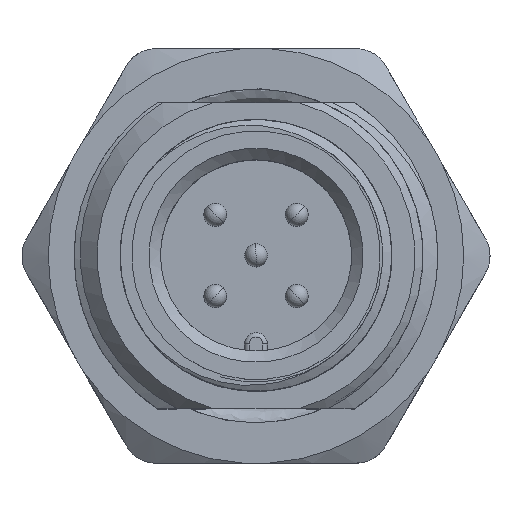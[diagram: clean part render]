
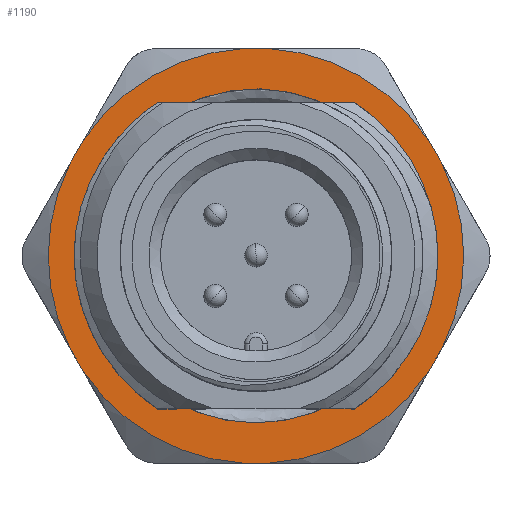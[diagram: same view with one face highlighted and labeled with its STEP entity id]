
A CAD part, top view. The second image highlights one B-rep face of the part: STEP entity #1190.
In plain terms, the highlighted planar face has unit normal (0, 0, 1).
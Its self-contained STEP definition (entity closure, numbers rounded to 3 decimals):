
#344=FACE_BOUND('',#1935,.T.);
#345=FACE_BOUND('',#1936,.T.);
#426=PLANE('',#5446);
#663=LINE('',#17451,#864);
#664=LINE('',#17455,#865);
#665=LINE('',#17459,#866);
#666=LINE('',#17463,#867);
#667=LINE('',#17467,#868);
#668=LINE('',#17471,#869);
#669=LINE('',#17475,#870);
#864=VECTOR('',#6648,1.);
#865=VECTOR('',#6651,1.);
#866=VECTOR('',#6654,1.);
#867=VECTOR('',#6657,1.);
#868=VECTOR('',#6660,1.);
#869=VECTOR('',#6663,1.);
#870=VECTOR('',#6666,1.);
#1190=ADVANCED_FACE('',(#344,#345),#426,.T.);
#1935=EDGE_LOOP('',(#3398,#3399,#3400));
#1936=EDGE_LOOP('',(#3401,#3402,#3403,#3404,#3405,#3406,#3407,#3408,#3409,
#3410,#3411,#3412));
#2144=B_SPLINE_CURVE_WITH_KNOTS('',3,(#17106,#17107,#17108,#17109),
 .UNSPECIFIED.,.F.,.F.,(4,4),(0.,1.),.UNSPECIFIED.);
#3398=ORIENTED_EDGE('',*,*,#4616,.F.);
#3399=ORIENTED_EDGE('',*,*,#4625,.T.);
#3400=ORIENTED_EDGE('',*,*,#4619,.F.);
#3401=ORIENTED_EDGE('',*,*,#4626,.F.);
#3402=ORIENTED_EDGE('',*,*,#4627,.T.);
#3403=ORIENTED_EDGE('',*,*,#4628,.F.);
#3404=ORIENTED_EDGE('',*,*,#4629,.T.);
#3405=ORIENTED_EDGE('',*,*,#4630,.F.);
#3406=ORIENTED_EDGE('',*,*,#4631,.T.);
#3407=ORIENTED_EDGE('',*,*,#4632,.F.);
#3408=ORIENTED_EDGE('',*,*,#4633,.T.);
#3409=ORIENTED_EDGE('',*,*,#4634,.F.);
#3410=ORIENTED_EDGE('',*,*,#4635,.T.);
#3411=ORIENTED_EDGE('',*,*,#4636,.F.);
#3412=ORIENTED_EDGE('',*,*,#4637,.T.);
#3966=VERTEX_POINT('',#17058);
#3967=VERTEX_POINT('',#17060);
#3968=VERTEX_POINT('',#17110);
#3971=VERTEX_POINT('',#17453);
#3972=VERTEX_POINT('',#17454);
#3973=VERTEX_POINT('',#17456);
#3974=VERTEX_POINT('',#17458);
#3975=VERTEX_POINT('',#17460);
#3976=VERTEX_POINT('',#17462);
#3977=VERTEX_POINT('',#17464);
#3978=VERTEX_POINT('',#17466);
#3979=VERTEX_POINT('',#17468);
#3980=VERTEX_POINT('',#17470);
#3981=VERTEX_POINT('',#17472);
#3982=VERTEX_POINT('',#17474);
#4616=EDGE_CURVE('',#3966,#3967,#4936,.T.);
#4619=EDGE_CURVE('',#3967,#3968,#2144,.T.);
#4625=EDGE_CURVE('',#3966,#3968,#663,.T.);
#4626=EDGE_CURVE('',#3971,#3972,#4937,.T.);
#4627=EDGE_CURVE('',#3971,#3973,#664,.T.);
#4628=EDGE_CURVE('',#3974,#3973,#4938,.T.);
#4629=EDGE_CURVE('',#3974,#3975,#665,.T.);
#4630=EDGE_CURVE('',#3976,#3975,#4939,.T.);
#4631=EDGE_CURVE('',#3976,#3977,#666,.T.);
#4632=EDGE_CURVE('',#3978,#3977,#4940,.T.);
#4633=EDGE_CURVE('',#3978,#3979,#667,.T.);
#4634=EDGE_CURVE('',#3980,#3979,#4941,.T.);
#4635=EDGE_CURVE('',#3980,#3981,#668,.T.);
#4636=EDGE_CURVE('',#3982,#3981,#4942,.T.);
#4637=EDGE_CURVE('',#3982,#3972,#669,.T.);
#4936=CIRCLE('',#5438,7.25);
#4937=CIRCLE('',#5440,9.02);
#4938=CIRCLE('',#5441,9.02);
#4939=CIRCLE('',#5442,9.02);
#4940=CIRCLE('',#5443,9.02);
#4941=CIRCLE('',#5444,9.02);
#4942=CIRCLE('',#5445,9.02);
#5438=AXIS2_PLACEMENT_3D('',#17059,#6644,#6645);
#5440=AXIS2_PLACEMENT_3D('',#17452,#6649,#6650);
#5441=AXIS2_PLACEMENT_3D('',#17457,#6652,#6653);
#5442=AXIS2_PLACEMENT_3D('',#17461,#6655,#6656);
#5443=AXIS2_PLACEMENT_3D('',#17465,#6658,#6659);
#5444=AXIS2_PLACEMENT_3D('',#17469,#6661,#6662);
#5445=AXIS2_PLACEMENT_3D('',#17473,#6664,#6665);
#5446=AXIS2_PLACEMENT_3D('',#17476,#6667,#6668);
#6644=DIRECTION('',(0.,0.,1.));
#6645=DIRECTION('',(1.,0.,0.));
#6648=DIRECTION('',(-0.985,0.175,0.));
#6649=DIRECTION('',(0.,0.,-1.));
#6650=DIRECTION('',(-1.,0.,0.));
#6651=DIRECTION('',(-0.5,-0.866,0.));
#6652=DIRECTION('',(0.,0.,-1.));
#6653=DIRECTION('',(-1.,0.,0.));
#6654=DIRECTION('',(0.5,-0.866,0.));
#6655=DIRECTION('',(0.,0.,-1.));
#6656=DIRECTION('',(-1.,0.,0.));
#6657=DIRECTION('',(1.,0.,0.));
#6658=DIRECTION('',(0.,0.,-1.));
#6659=DIRECTION('',(-1.,0.,0.));
#6660=DIRECTION('',(0.5,0.866,0.));
#6661=DIRECTION('',(0.,0.,-1.));
#6662=DIRECTION('',(-1.,0.,0.));
#6663=DIRECTION('',(-0.5,0.866,0.));
#6664=DIRECTION('',(0.,0.,-1.));
#6665=DIRECTION('',(-1.,0.,0.));
#6666=DIRECTION('',(-1.,0.,0.));
#6667=DIRECTION('',(0.,0.,1.));
#6668=DIRECTION('',(-1.,0.,0.));
#17058=CARTESIAN_POINT('',(-7.138,1.271,14.3));
#17059=CARTESIAN_POINT('',(0.,0.,14.3));
#17060=CARTESIAN_POINT('',(-6.735,2.685,14.3));
#17106=CARTESIAN_POINT('',(-6.735,2.685,14.3));
#17107=CARTESIAN_POINT('',(-6.943,2.238,14.3));
#17108=CARTESIAN_POINT('',(-7.106,1.766,14.3));
#17109=CARTESIAN_POINT('',(-7.22,1.286,14.3));
#17110=CARTESIAN_POINT('',(-7.22,1.286,14.3));
#17451=CARTESIAN_POINT('',(0.,0.,14.3));
#17452=CARTESIAN_POINT('',(0.,0.,14.3));
#17453=CARTESIAN_POINT('',(-7.497,5.015,14.3));
#17454=CARTESIAN_POINT('',(-0.595,9.,14.3));
#17455=CARTESIAN_POINT('',(-5.052,9.25,14.3));
#17456=CARTESIAN_POINT('',(-8.092,3.985,14.3));
#17457=CARTESIAN_POINT('',(0.,0.,14.3));
#17458=CARTESIAN_POINT('',(-8.092,-3.985,14.3));
#17459=CARTESIAN_POINT('',(-10.537,0.25,14.3));
#17460=CARTESIAN_POINT('',(-7.497,-5.015,14.3));
#17461=CARTESIAN_POINT('',(0.,0.,14.3));
#17462=CARTESIAN_POINT('',(-0.595,-9.,14.3));
#17463=CARTESIAN_POINT('',(-5.485,-9.,14.3));
#17464=CARTESIAN_POINT('',(0.595,-9.,14.3));
#17465=CARTESIAN_POINT('',(0.,0.,14.3));
#17466=CARTESIAN_POINT('',(7.497,-5.015,14.3));
#17467=CARTESIAN_POINT('',(5.052,-9.25,14.3));
#17468=CARTESIAN_POINT('',(8.092,-3.985,14.3));
#17469=CARTESIAN_POINT('',(0.,0.,14.3));
#17470=CARTESIAN_POINT('',(8.092,3.985,14.3));
#17471=CARTESIAN_POINT('',(10.537,-0.25,14.3));
#17472=CARTESIAN_POINT('',(7.497,5.015,14.3));
#17473=CARTESIAN_POINT('',(0.,0.,14.3));
#17474=CARTESIAN_POINT('',(0.595,9.,14.3));
#17475=CARTESIAN_POINT('',(5.485,9.,14.3));
#17476=CARTESIAN_POINT('',(0.,0.,14.3));
